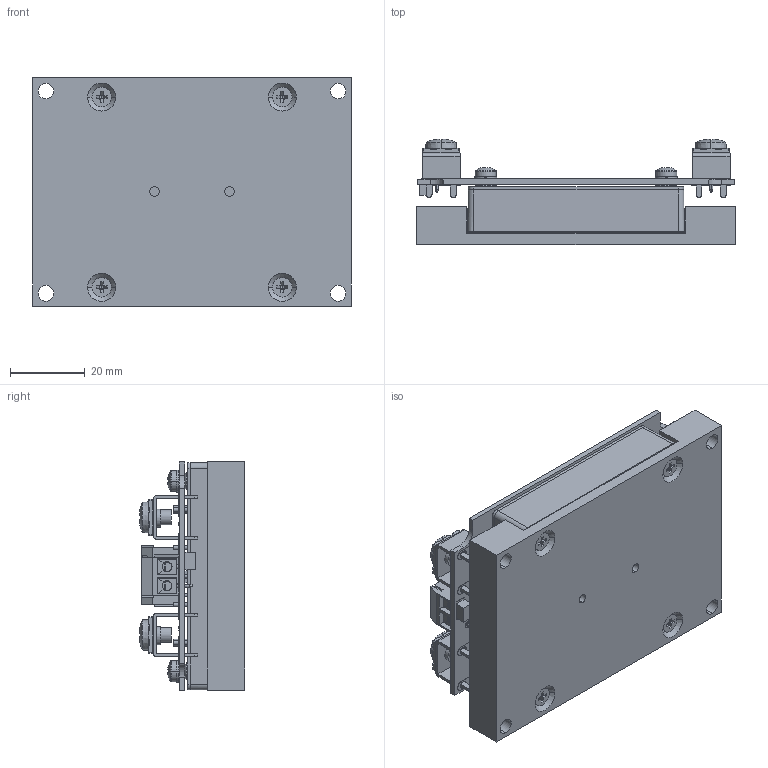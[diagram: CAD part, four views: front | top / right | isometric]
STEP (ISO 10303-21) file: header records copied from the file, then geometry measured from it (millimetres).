
FILE_DESCRIPTION (( 'STEP AP214' ), '1' );
FILE_NAME ('TEP 75 CM.STEP', '2022-05-11T07:01:23', ( '' ), ( '' ), 'SwSTEP 2.0', 'SolidWorks 2016', '' );
FILE_SCHEMA (( 'AUTOMOTIVE_DESIGN' ));
Length unit declared in the file: millimetre
Products named in the file (1): TEP 75 CM
Bounding box: 85 x 28.08 x 61.1 mm (x, y, z)
Volume: 80277.7 mm3; surface area: 50125.7 mm2
Topology: 32 solids, 32 shells, 1960 faces, 5084 edges, 3280 vertices
Faces by surface type: plane 1155, cylinder 554, cone 188, bspline 63
Entity records: 76233 total; most frequent: CARTESIAN_POINT 13039, ORIENTED_EDGE 10120, DIRECTION 9971, EDGE_CURVE 5060, AXIS2_PLACEMENT_3D 3434, VERTEX_POINT 3280, VECTOR 3103, LINE 3103
